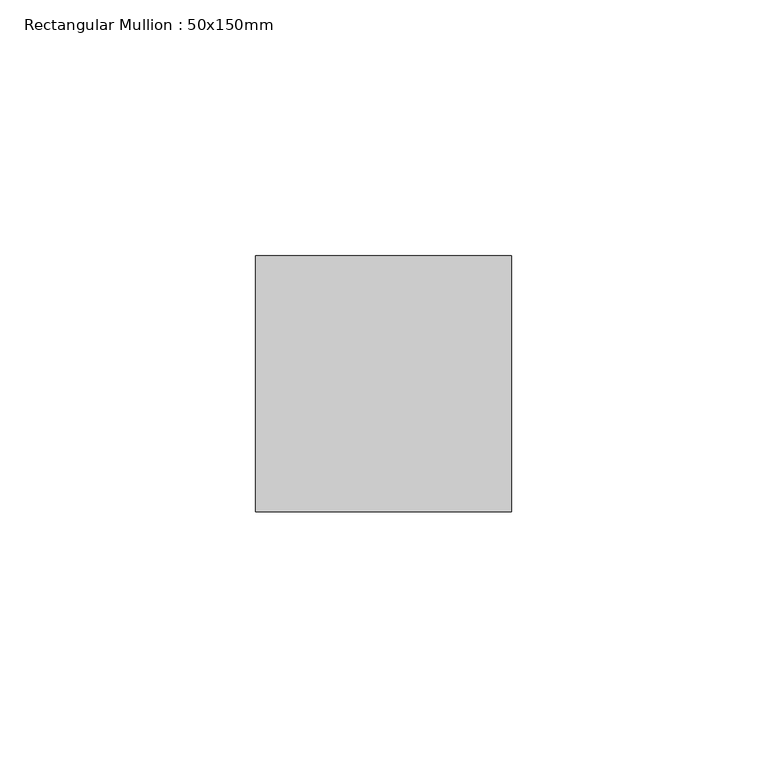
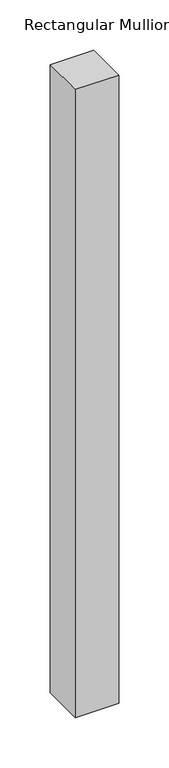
"""IFC4 building model written with IfcOpenShell, lengths in millimetres: member geometry, Rectangular Mullion : 50x150mm."""

from ifc_helpers import new_model, si_unit, frame, origin, place, context, project, spatial, polyline, outline, extrude, source, transform, mapped, element, save


def rectangular_mullion_50x150mm_ed4077da(model_context):
    return source(origin(), model_context, "Body", "SweptSolid", [
        extrude(outline(polyline([(25.0, 25.0), (25.0, -25.0), (-25.0, -25.0), (-25.0, 25.0), (25.0, 25.0)])), frame((0.0, 0.0, -765.0), z_axis=(0.0, 0.0, 1.0), x_axis=(1.0, 0.0, 0.0)), (0.0, 0.0, 1.0), 765.0),
    ])


if __name__ == "__main__":
    model = new_model("IFC4")
    model_context = context("Model", 3, world=origin())
    ifc_project = project(units=[si_unit("LENGTHUNIT", "METRE", prefix="MILLI")], contexts=[model_context])
    site = spatial("IfcSite", under=ifc_project)
    building = spatial("IfcBuilding", under=site)
    placement = place(None, origin())
    rectangular_mullion_50x150mm_shape = rectangular_mullion_50x150mm_ed4077da(model_context)
    element("IfcMember", 1, ObjectType="Rectangular Mullion : 50x150mm", at=placement, inside=building, context=model_context, shape_type="MappedRepresentation", body=[
        mapped(rectangular_mullion_50x150mm_shape, transform((0.0, 0.0, 0.0), x_axis=(1.0, 0.0, 0.0), y_axis=(0.0, 1.0, 0.0), z_axis=(0.0, 0.0, 1.0))),
    ])
    save(model, "model.ifc")
